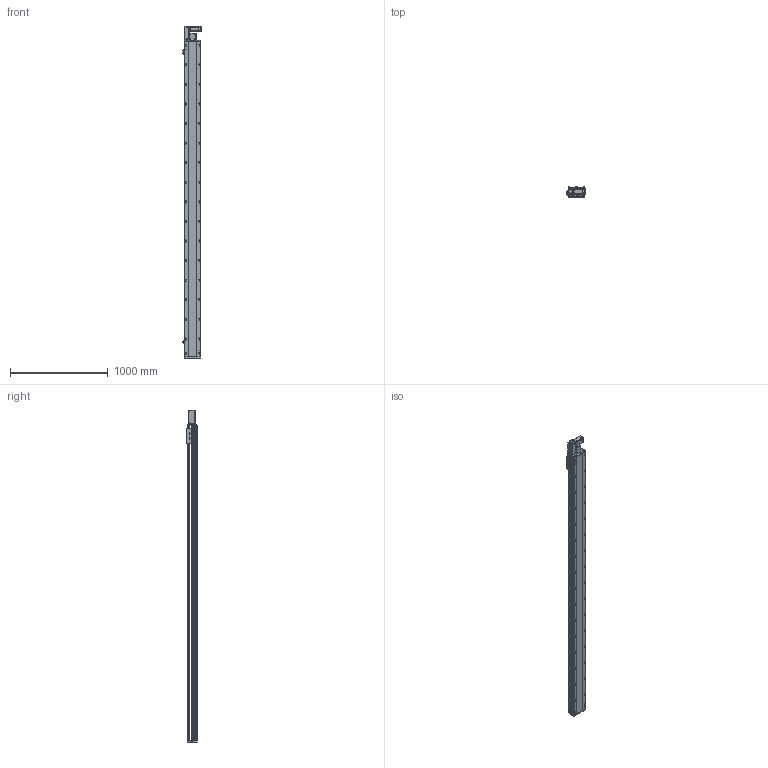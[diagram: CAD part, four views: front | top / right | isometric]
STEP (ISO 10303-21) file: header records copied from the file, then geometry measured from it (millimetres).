
FILE_DESCRIPTION (( 'STEP AP214' ), '1' );
FILE_NAME ('RTB17S-XX-2950-L-M40-C4.STEP', '2025-12-11T06:00:57', ( '' ), ( '' ), 'SwSTEP 2.0', 'SolidWorks 2018', '' );
FILE_SCHEMA (( 'AUTOMOTIVE_DESIGN' ));
Length unit declared in the file: millimetre
Products named in the file (14): RTH13-BL-012感应片外置^RTB17S-XX-XX-L-M40-C4（方程式）; RTB14-L-005P--轴承塑胶压盖^RTB17S-L-皮带座装配-400W_RTB17S-XX-XX-L-M40-C4（方程式）; RTB17S-L-皮带座装配-400W^RTB17S-XX-XX-L-M40-C4（方程式）; RTB17S-XX-2950-L-M40-C4; OMRON EE-SX672 传感器^RTB17S-XX-XX-L-M40-C4（方程式）; RTB17S-L-001侧面板^RTB17S-XX-XX-L-M40-C4（方程式）; RTB14-L-008-M20--电机板^RTB17S-L-皮带座装配-400W_RTB17S-XX-XX-L-M40-C4（方程式）; RMP17S-L-014-T20--皮带座^RTB17S-L-皮带座装配-400W_RTB17S-XX-XX-L-M40-C4（方程式）; RTB17S-L-004丝杆螺母连接座^RTB17S-XX-XX-L-M40-C4（方程式）; RTB17S-L-007上盖^RTB17S-XX-XX-L-M40-C4（方程式）; RTB17-R-011底座^RTB17S-XX-XX-L-M40-C4（方程式）; 400W伺服电机^RTB17S-XX-XX-L-M40-C4（方程式）; RTB14-L-018P^RTB17S-L-皮带座装配-400W_RTB17S-XX-XX-L-M40-C4（方程式）; RTB14-L-017P^RTB17S-L-皮带座装配-400W_RTB17S-XX-XX-L-M40-C4（方程式）
Assembly tree (16 placements, depth 3):
  RTB17S-XX-2950-L-M40-C4
    RTB17-R-011底座^RTB17S-XX-XX-L-M40-C4（方程式）
    RTB17S-L-007上盖^RTB17S-XX-XX-L-M40-C4（方程式）
    OMRON EE-SX672 传感器^RTB17S-XX-XX-L-M40-C4（方程式）  x3
    RTB17S-L-001侧面板^RTB17S-XX-XX-L-M40-C4（方程式）
    400W伺服电机^RTB17S-XX-XX-L-M40-C4（方程式）
    RTB17S-L-004丝杆螺母连接座^RTB17S-XX-XX-L-M40-C4（方程式）
    RTH13-BL-012感应片外置^RTB17S-XX-XX-L-M40-C4（方程式）
    RTB17S-L-皮带座装配-400W^RTB17S-XX-XX-L-M40-C4（方程式）
      RMP17S-L-014-T20--皮带座^RTB17S-L-皮带座装配-400W_RTB17S-XX-XX-L-M40-C4（方程式）
      RTB14-L-005P--轴承塑胶压盖^RTB17S-L-皮带座装配-400W_RTB17S-XX-XX-L-M40-C4（方程式）
      RTB14-L-008-M20--电机板^RTB17S-L-皮带座装配-400W_RTB17S-XX-XX-L-M40-C4（方程式）
      RTB14-L-017P^RTB17S-L-皮带座装配-400W_RTB17S-XX-XX-L-M40-C4（方程式）  x2
      RTB14-L-018P^RTB17S-L-皮带座装配-400W_RTB17S-XX-XX-L-M40-C4（方程式）
Bounding box: 186 x 108 x 3391 mm (x, y, z)
Volume: 28276429.7 mm3; surface area: 3232183 mm2
Topology: 15 solids, 15 shells, 2365 faces, 6627 edges, 4329 vertices
Faces by surface type: plane 1088, cylinder 829, bspline 301, cone 139, torus 8
Entity records: 70313 total; most frequent: CARTESIAN_POINT 20032, ORIENTED_EDGE 10098, DIRECTION 9296, EDGE_CURVE 5049, VERTEX_POINT 3317, AXIS2_PLACEMENT_3D 3247, LINE 2802, VECTOR 2802
